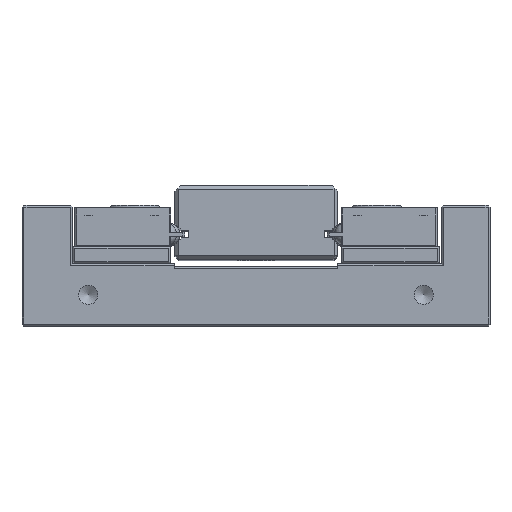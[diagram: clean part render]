
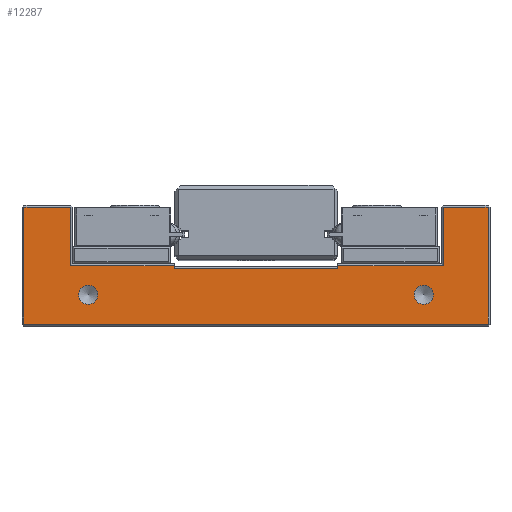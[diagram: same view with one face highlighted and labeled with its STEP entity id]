
A CAD part, top view. The second image highlights one B-rep face of the part: STEP entity #12287.
In plain terms, the highlighted planar face has unit normal (0, 0, 1).
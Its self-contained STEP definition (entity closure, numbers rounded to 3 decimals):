
#403=FACE_BOUND('',#2245,.T.);
#404=FACE_BOUND('',#2246,.T.);
#898=PLANE('',#13349);
#1508=FACE_OUTER_BOUND('',#2244,.T.);
#2244=EDGE_LOOP('',(#10380,#10381,#10382,#10383,#10384,#10385,#10386,#10387,
#10388,#10389,#10390,#10391));
#2245=EDGE_LOOP('',(#10392));
#2246=EDGE_LOOP('',(#10393));
#3204=LINE('',#20294,#4224);
#3276=LINE('',#20508,#4296);
#3305=LINE('',#20562,#4325);
#3307=LINE('',#20565,#4327);
#3309=LINE('',#20569,#4329);
#3310=LINE('',#20571,#4330);
#3312=LINE('',#20575,#4332);
#3313=LINE('',#20577,#4333);
#3316=LINE('',#20582,#4336);
#3318=LINE('',#20586,#4338);
#3320=LINE('',#20590,#4340);
#3321=LINE('',#20592,#4341);
#4224=VECTOR('',#15842,10.);
#4296=VECTOR('',#16066,10.);
#4325=VECTOR('',#16129,10.);
#4327=VECTOR('',#16133,10.);
#4329=VECTOR('',#16139,10.);
#4330=VECTOR('',#16142,10.);
#4332=VECTOR('',#16148,10.);
#4333=VECTOR('',#16151,10.);
#4336=VECTOR('',#16156,10.);
#4338=VECTOR('',#16160,10.);
#4340=VECTOR('',#16166,10.);
#4341=VECTOR('',#16169,10.);
#4780=CIRCLE('',#13350,2.459);
#4781=CIRCLE('',#13351,2.459);
#5698=VERTEX_POINT('',#20287);
#5701=VERTEX_POINT('',#20292);
#5759=VERTEX_POINT('',#20473);
#5764=VERTEX_POINT('',#20491);
#5766=VERTEX_POINT('',#20505);
#5767=VERTEX_POINT('',#20507);
#5768=VERTEX_POINT('',#20511);
#5770=VERTEX_POINT('',#20523);
#5771=VERTEX_POINT('',#20528);
#5773=VERTEX_POINT('',#20546);
#5776=VERTEX_POINT('',#20581);
#5777=VERTEX_POINT('',#20585);
#5778=VERTEX_POINT('',#20593);
#5779=VERTEX_POINT('',#20595);
#7230=EDGE_CURVE('',#5701,#5698,#3204,.T.);
#7336=EDGE_CURVE('',#5766,#5767,#3276,.T.);
#7365=EDGE_CURVE('',#5770,#5773,#3305,.T.);
#7367=EDGE_CURVE('',#5773,#5771,#3307,.T.);
#7369=EDGE_CURVE('',#5771,#5768,#3309,.T.);
#7370=EDGE_CURVE('',#5767,#5770,#3310,.T.);
#7372=EDGE_CURVE('',#5768,#5764,#3312,.T.);
#7373=EDGE_CURVE('',#5764,#5759,#3313,.T.);
#7376=EDGE_CURVE('',#5759,#5776,#3316,.T.);
#7378=EDGE_CURVE('',#5776,#5777,#3318,.T.);
#7380=EDGE_CURVE('',#5701,#5777,#3320,.T.);
#7381=EDGE_CURVE('',#5766,#5698,#3321,.T.);
#7382=EDGE_CURVE('',#5778,#5778,#4780,.T.);
#7383=EDGE_CURVE('',#5779,#5779,#4781,.T.);
#10380=ORIENTED_EDGE('',*,*,#7380,.T.);
#10381=ORIENTED_EDGE('',*,*,#7378,.F.);
#10382=ORIENTED_EDGE('',*,*,#7376,.F.);
#10383=ORIENTED_EDGE('',*,*,#7373,.F.);
#10384=ORIENTED_EDGE('',*,*,#7372,.F.);
#10385=ORIENTED_EDGE('',*,*,#7369,.F.);
#10386=ORIENTED_EDGE('',*,*,#7367,.F.);
#10387=ORIENTED_EDGE('',*,*,#7365,.F.);
#10388=ORIENTED_EDGE('',*,*,#7370,.F.);
#10389=ORIENTED_EDGE('',*,*,#7336,.F.);
#10390=ORIENTED_EDGE('',*,*,#7381,.T.);
#10391=ORIENTED_EDGE('',*,*,#7230,.F.);
#10392=ORIENTED_EDGE('',*,*,#7382,.T.);
#10393=ORIENTED_EDGE('',*,*,#7383,.T.);
#12287=ADVANCED_FACE('',(#1508,#403,#404),#898,.T.);
#13349=AXIS2_PLACEMENT_3D('',#20591,#16167,#16168);
#13350=AXIS2_PLACEMENT_3D('',#20594,#16170,#16171);
#13351=AXIS2_PLACEMENT_3D('',#20596,#16172,#16173);
#15842=DIRECTION('',(1.,0.,0.));
#16066=DIRECTION('',(1.,0.,0.));
#16129=DIRECTION('',(1.,0.,0.));
#16133=DIRECTION('',(0.,-1.,0.));
#16139=DIRECTION('',(-1.,0.,0.));
#16142=DIRECTION('',(0.,1.,0.));
#16148=DIRECTION('',(0.,1.,0.));
#16151=DIRECTION('',(1.,0.,0.));
#16156=DIRECTION('',(0.,-1.,0.));
#16160=DIRECTION('',(1.,0.,0.));
#16166=DIRECTION('',(0.,1.,0.));
#16167=DIRECTION('center_axis',(0.,0.,1.));
#16168=DIRECTION('ref_axis',(1.,0.,0.));
#16169=DIRECTION('',(0.,-1.,0.));
#16170=DIRECTION('center_axis',(0.,0.,-1.));
#16171=DIRECTION('ref_axis',(-1.,0.,0.));
#16172=DIRECTION('center_axis',(0.,0.,-1.));
#16173=DIRECTION('ref_axis',(-1.,0.,0.));
#20287=CARTESIAN_POINT('',(23.66,11.195,52.5));
#20292=CARTESIAN_POINT('',(-18.34,11.195,52.5));
#20294=CARTESIAN_POINT('',(13.16,11.195,52.5));
#20473=CARTESIAN_POINT('',(-44.84,26.995,52.5));
#20491=CARTESIAN_POINT('',(-56.84,26.995,52.5));
#20505=CARTESIAN_POINT('',(23.66,11.995,52.5));
#20507=CARTESIAN_POINT('',(50.66,11.995,52.5));
#20508=CARTESIAN_POINT('',(26.41,11.995,52.5));
#20511=CARTESIAN_POINT('',(-56.84,-3.005,52.5));
#20523=CARTESIAN_POINT('',(50.66,26.995,52.5));
#20528=CARTESIAN_POINT('',(62.16,-3.005,52.5));
#20546=CARTESIAN_POINT('',(62.16,26.995,52.5));
#20562=CARTESIAN_POINT('',(32.66,26.995,52.5));
#20565=CARTESIAN_POINT('',(62.16,4.245,52.5));
#20569=CARTESIAN_POINT('',(-27.34,-3.005,52.5));
#20571=CARTESIAN_POINT('',(50.66,19.745,52.5));
#20575=CARTESIAN_POINT('',(-56.84,19.745,52.5));
#20577=CARTESIAN_POINT('',(-20.84,26.995,52.5));
#20581=CARTESIAN_POINT('',(-44.84,11.995,52.5));
#20582=CARTESIAN_POINT('',(-44.84,12.245,52.5));
#20585=CARTESIAN_POINT('',(-18.34,11.995,52.5));
#20586=CARTESIAN_POINT('',(-7.84,11.995,52.5));
#20590=CARTESIAN_POINT('',(-18.34,11.695,52.5));
#20591=CARTESIAN_POINT('Origin',(2.66,11.995,52.5));
#20592=CARTESIAN_POINT('',(23.66,12.495,52.5));
#20593=CARTESIAN_POINT('',(-37.881,4.495,52.5));
#20594=CARTESIAN_POINT('Origin',(-40.34,4.495,52.5));
#20595=CARTESIAN_POINT('',(48.119,4.495,52.5));
#20596=CARTESIAN_POINT('Origin',(45.66,4.495,52.5));
